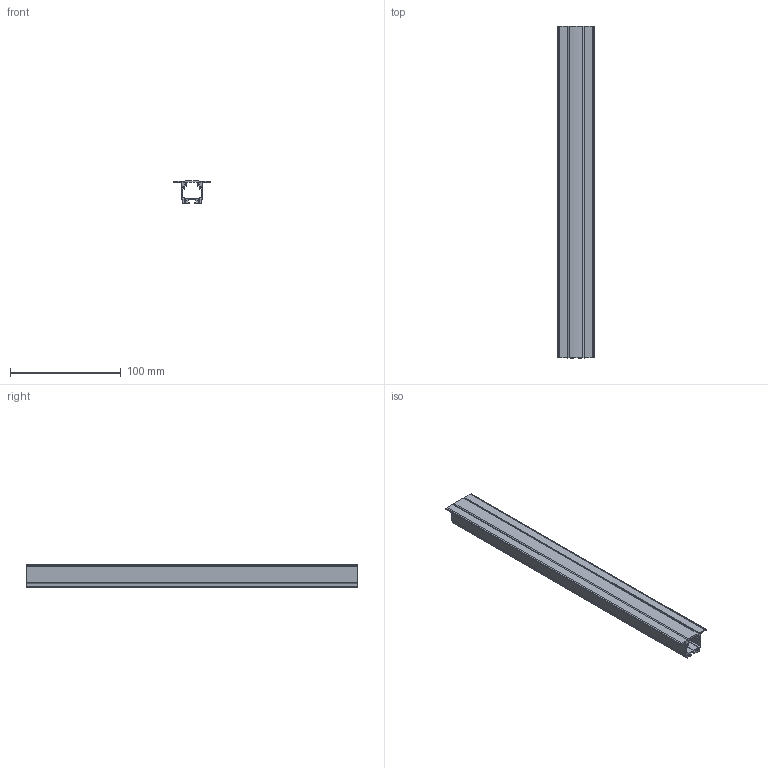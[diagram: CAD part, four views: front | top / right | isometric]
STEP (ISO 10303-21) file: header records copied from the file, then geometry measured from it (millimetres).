
FILE_DESCRIPTION (( 'STEP AP203' ), '1' );
FILE_NAME ('Slackline Trim.STEP', '2022-04-08T07:13:30', ( '' ), ( '' ), 'SwSTEP 2.0', 'SolidWorks 2016', '' );
FILE_SCHEMA (( 'CONFIG_CONTROL_DESIGN' ));
Length unit declared in the file: millimetre
Products named in the file (3): 0-BOK-0097-0-00; walk system opal gen3_ estruso; Slackline Trim
Assembly tree (2 placements, depth 2):
  Slackline Trim
    walk system opal gen3_ estruso
    0-BOK-0097-0-00
Bounding box: 32.6 x 300 x 20.65 mm (x, y, z)
Volume: 44755.2 mm3; surface area: 66168.9 mm2
Topology: 2 solids, 2 shells, 119 faces, 345 edges, 230 vertices
Faces by surface type: plane 77, cylinder 42
Entity records: 4228 total; most frequent: CARTESIAN_POINT 699, ORIENTED_EDGE 690, DIRECTION 677, EDGE_CURVE 345, LINE 261, VECTOR 261, VERTEX_POINT 230, AXIS2_PLACEMENT_3D 208
